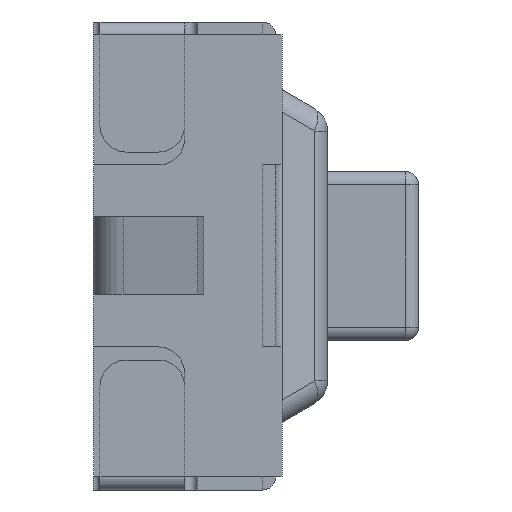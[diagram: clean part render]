
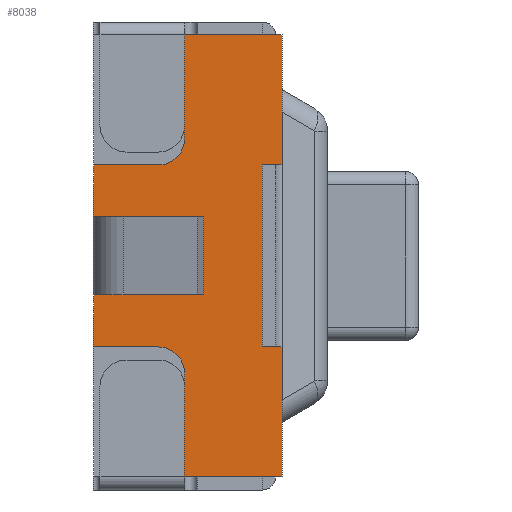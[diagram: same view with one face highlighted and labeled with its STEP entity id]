
A CAD part, left-side view. The second image highlights one B-rep face of the part: STEP entity #8038.
In plain terms, the highlighted planar face has unit normal (-1, 0, 0).
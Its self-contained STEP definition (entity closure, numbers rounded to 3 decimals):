
#4681=DIRECTION('',(0.,0.,1.));
#4682=VECTOR('',#4681,1.4);
#4683=CARTESIAN_POINT('',(-3.,0.,-0.7));
#4684=LINE('',#4683,#4682);
#5581=DIRECTION('',(0.,0.,1.));
#5582=VECTOR('',#5581,0.4);
#5583=CARTESIAN_POINT('',(-3.,1.3,0.3));
#5584=LINE('',#5583,#5582);
#5609=DIRECTION('',(0.,0.,1.));
#5610=VECTOR('',#5609,0.4);
#5611=CARTESIAN_POINT('',(-3.,1.3,-0.7));
#5612=LINE('',#5611,#5610);
#5760=DIRECTION('',(0.,-1.,0.));
#5761=VECTOR('',#5760,0.5);
#5762=CARTESIAN_POINT('',(-3.,1.3,0.7));
#5763=LINE('',#5762,#5761);
#5767=DIRECTION('',(0.,0.,1.));
#5768=VECTOR('',#5767,0.8);
#5769=CARTESIAN_POINT('',(-3.,0.6,0.9));
#5770=LINE('',#5769,#5768);
#5774=DIRECTION('',(0.,-1.,0.));
#5775=VECTOR('',#5774,0.15);
#5776=CARTESIAN_POINT('',(-3.,0.,-0.7));
#5777=LINE('',#5776,#5775);
#5781=DIRECTION('',(0.,1.,0.));
#5782=VECTOR('',#5781,0.75);
#5783=CARTESIAN_POINT('',(-3.,-0.15,-1.7));
#5784=LINE('',#5783,#5782);
#5788=DIRECTION('',(0.,0.,1.));
#5789=VECTOR('',#5788,0.8);
#5790=CARTESIAN_POINT('',(-3.,0.6,-1.7));
#5791=LINE('',#5790,#5789);
#5795=DIRECTION('',(0.,-1.,0.));
#5796=VECTOR('',#5795,0.5);
#5797=CARTESIAN_POINT('',(-3.,1.3,-0.7));
#5798=LINE('',#5797,#5796);
#5802=DIRECTION('',(0.,-1.,0.));
#5803=VECTOR('',#5802,0.002);
#5804=CARTESIAN_POINT('',(-3.,1.3,-0.3));
#5805=LINE('',#5804,#5803);
#5809=DIRECTION('',(0.,-1.,0.));
#5810=VECTOR('',#5809,0.198);
#5811=CARTESIAN_POINT('',(-3.,1.298,-0.3));
#5812=LINE('',#5811,#5810);
#5816=DIRECTION('',(0.,0.,1.));
#5817=VECTOR('',#5816,0.6);
#5818=CARTESIAN_POINT('',(-3.,1.1,-0.3));
#5819=LINE('',#5818,#5817);
#5823=DIRECTION('',(0.,-1.,0.));
#5824=VECTOR('',#5823,0.198);
#5825=CARTESIAN_POINT('',(-3.,1.298,0.3));
#5826=LINE('',#5825,#5824);
#5830=DIRECTION('',(0.,-1.,0.));
#5831=VECTOR('',#5830,0.002);
#5832=CARTESIAN_POINT('',(-3.,1.3,0.3));
#5833=LINE('',#5832,#5831);
#5851=CARTESIAN_POINT('',(-3.,0.8,0.9));
#5852=DIRECTION('',(1.,0.,0.));
#5853=DIRECTION('',(0.,-1.,0.));
#5854=AXIS2_PLACEMENT_3D('',#5851,#5852,#5853);
#5909=DIRECTION('',(0.,1.,0.));
#5910=VECTOR('',#5909,0.75);
#5911=CARTESIAN_POINT('',(-3.,-0.15,1.7));
#5912=LINE('',#5911,#5910);
#5981=DIRECTION('',(0.,0.,-1.));
#5982=VECTOR('',#5981,1.);
#5983=CARTESIAN_POINT('',(-3.,-0.15,-0.7));
#5984=LINE('',#5983,#5982);
#6030=DIRECTION('',(0.,0.,-1.));
#6031=VECTOR('',#6030,1.);
#6032=CARTESIAN_POINT('',(-3.,-0.15,1.7));
#6033=LINE('',#6032,#6031);
#6115=CARTESIAN_POINT('',(-3.,0.8,-0.9));
#6116=DIRECTION('',(1.,0.,0.));
#6117=DIRECTION('',(0.,0.,1.));
#6118=AXIS2_PLACEMENT_3D('',#6115,#6116,#6117);
#6172=DIRECTION('',(0.,-1.,0.));
#6173=VECTOR('',#6172,0.15);
#6174=CARTESIAN_POINT('',(-3.,0.,0.7));
#6175=LINE('',#6174,#6173);
#6324=CARTESIAN_POINT('',(-3.,-0.15,-1.7));
#6326=VERTEX_POINT('',#6324);
#6330=CARTESIAN_POINT('',(-3.,-0.15,-0.7));
#6331=VERTEX_POINT('',#6330);
#6340=CARTESIAN_POINT('',(-3.,-0.15,1.7));
#6341=CARTESIAN_POINT('',(-3.,-0.15,0.7));
#6342=VERTEX_POINT('',#6340);
#6343=VERTEX_POINT('',#6341);
#6358=CARTESIAN_POINT('',(-3.,0.,-0.7));
#6359=VERTEX_POINT('',#6358);
#6366=CARTESIAN_POINT('',(-3.,0.,0.7));
#6367=VERTEX_POINT('',#6366);
#6450=CARTESIAN_POINT('',(-3.,1.3,0.7));
#6451=VERTEX_POINT('',#6450);
#6452=CARTESIAN_POINT('',(-3.,1.3,-0.7));
#6454=VERTEX_POINT('',#6452);
#6463=CARTESIAN_POINT('',(-3.,0.6,-1.7));
#6465=VERTEX_POINT('',#6463);
#6466=CARTESIAN_POINT('',(-3.,0.6,1.7));
#6468=VERTEX_POINT('',#6466);
#6522=CARTESIAN_POINT('',(-3.,1.1,-0.3));
#6523=CARTESIAN_POINT('',(-3.,1.1,0.3));
#6524=VERTEX_POINT('',#6522);
#6525=VERTEX_POINT('',#6523);
#6547=CARTESIAN_POINT('',(-3.,1.298,-0.3));
#6549=VERTEX_POINT('',#6547);
#6554=CARTESIAN_POINT('',(-3.,1.298,0.3));
#6556=VERTEX_POINT('',#6554);
#6558=CARTESIAN_POINT('',(-3.,1.3,0.3));
#6559=VERTEX_POINT('',#6558);
#6560=CARTESIAN_POINT('',(-3.,1.3,-0.3));
#6561=VERTEX_POINT('',#6560);
#6579=CARTESIAN_POINT('',(-3.,0.6,-0.9));
#6581=VERTEX_POINT('',#6579);
#6584=CARTESIAN_POINT('',(-3.,0.8,-0.7));
#6585=VERTEX_POINT('',#6584);
#6590=CARTESIAN_POINT('',(-3.,0.6,0.9));
#6591=VERTEX_POINT('',#6590);
#6592=CARTESIAN_POINT('',(-3.,0.8,0.7));
#6593=VERTEX_POINT('',#6592);
#7998=CARTESIAN_POINT('',(-3.,0.,-1.7));
#7999=DIRECTION('',(-1.,0.,0.));
#8000=DIRECTION('',(0.,0.,1.));
#8001=AXIS2_PLACEMENT_3D('',#7998,#7999,#8000);
#8002=PLANE('',#8001);
#8004=ORIENTED_EDGE('',*,*,#8003,.T.);
#8006=ORIENTED_EDGE('',*,*,#8005,.F.);
#8007=ORIENTED_EDGE('',*,*,#7760,.T.);
#8009=ORIENTED_EDGE('',*,*,#8008,.F.);
#8011=ORIENTED_EDGE('',*,*,#8010,.T.);
#8013=ORIENTED_EDGE('',*,*,#8012,.F.);
#8014=ORIENTED_EDGE('',*,*,#6609,.F.);
#8016=ORIENTED_EDGE('',*,*,#8015,.T.);
#8018=ORIENTED_EDGE('',*,*,#8017,.T.);
#8020=ORIENTED_EDGE('',*,*,#8019,.T.);
#8021=ORIENTED_EDGE('',*,*,#7740,.T.);
#8023=ORIENTED_EDGE('',*,*,#8022,.F.);
#8025=ORIENTED_EDGE('',*,*,#8024,.F.);
#8026=ORIENTED_EDGE('',*,*,#7836,.T.);
#8028=ORIENTED_EDGE('',*,*,#8027,.T.);
#8029=ORIENTED_EDGE('',*,*,#7928,.T.);
#8030=ORIENTED_EDGE('',*,*,#7950,.T.);
#8032=ORIENTED_EDGE('',*,*,#8031,.F.);
#8034=ORIENTED_EDGE('',*,*,#8033,.F.);
#8035=ORIENTED_EDGE('',*,*,#7828,.T.);
#8036=EDGE_LOOP('',(#8004,#8006,#8007,#8009,#8011,#8013,#8014,#8016,#8018,#8020,
#8021,#8023,#8025,#8026,#8028,#8029,#8030,#8032,#8034,#8035));
#8037=FACE_OUTER_BOUND('',#8036,.F.);
#5855=CIRCLE('',#5854,0.2);
#6119=CIRCLE('',#6118,0.2);
#6609=EDGE_CURVE('',#6359,#6367,#4684,.T.);
#7740=EDGE_CURVE('',#6465,#6581,#5791,.T.);
#7760=EDGE_CURVE('',#6591,#6468,#5770,.T.);
#7828=EDGE_CURVE('',#6559,#6451,#5584,.T.);
#7836=EDGE_CURVE('',#6454,#6561,#5612,.T.);
#7928=EDGE_CURVE('',#6549,#6524,#5812,.T.);
#7950=EDGE_CURVE('',#6524,#6525,#5819,.T.);
#8003=EDGE_CURVE('',#6451,#6593,#5763,.T.);
#8005=EDGE_CURVE('',#6591,#6593,#5855,.T.);
#8008=EDGE_CURVE('',#6342,#6468,#5912,.T.);
#8010=EDGE_CURVE('',#6342,#6343,#6033,.T.);
#8012=EDGE_CURVE('',#6367,#6343,#6175,.T.);
#8015=EDGE_CURVE('',#6359,#6331,#5777,.T.);
#8017=EDGE_CURVE('',#6331,#6326,#5984,.T.);
#8019=EDGE_CURVE('',#6326,#6465,#5784,.T.);
#8022=EDGE_CURVE('',#6585,#6581,#6119,.T.);
#8024=EDGE_CURVE('',#6454,#6585,#5798,.T.);
#8027=EDGE_CURVE('',#6561,#6549,#5805,.T.);
#8031=EDGE_CURVE('',#6556,#6525,#5826,.T.);
#8033=EDGE_CURVE('',#6559,#6556,#5833,.T.);
#8038=ADVANCED_FACE('',(#8037),#8002,.T.);
